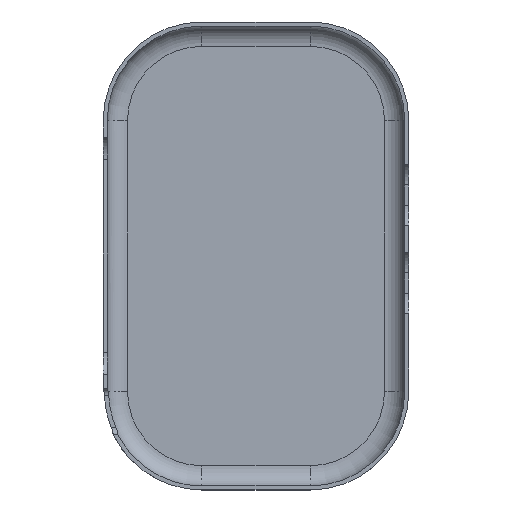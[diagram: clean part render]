
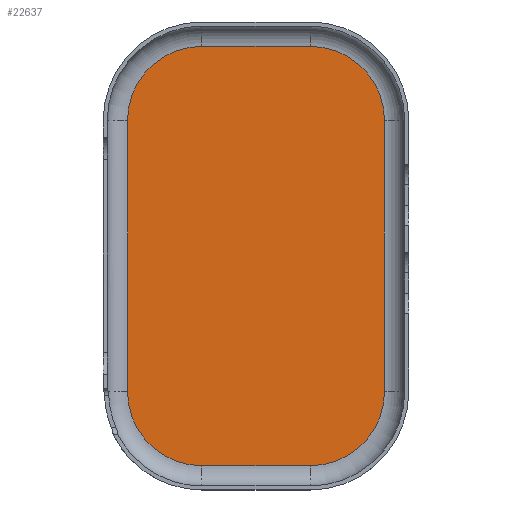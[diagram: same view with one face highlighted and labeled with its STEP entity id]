
A CAD part, top view. The second image highlights one B-rep face of the part: STEP entity #22637.
In plain terms, the highlighted planar face has unit normal (0, 0, 1).
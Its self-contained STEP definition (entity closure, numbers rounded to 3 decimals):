
#22637 = ADVANCED_FACE('',(#22638),#22652,.T.);
#22638 = FACE_BOUND('',#22639,.T.);
#22639 = EDGE_LOOP('',(#22640,#22675,#22704,#22732,#22761,#22789,#22818,
    #22846));
#22640 = ORIENTED_EDGE('',*,*,#22641,.T.);
#22641 = EDGE_CURVE('',#22642,#22644,#22646,.T.);
#22642 = VERTEX_POINT('',#22643);
#22643 = CARTESIAN_POINT('',(-38.,40.,-13.2));
#22644 = VERTEX_POINT('',#22645);
#22645 = CARTESIAN_POINT('',(-38.,-40.,-13.2));
#22646 = SURFACE_CURVE('',#22647,(#22651,#22663),.PCURVE_S1.);
#22647 = LINE('',#22648,#22649);
#22648 = CARTESIAN_POINT('',(-38.,34.,-13.2));
#22649 = VECTOR('',#22650,1.);
#22650 = DIRECTION('',(0.,-1.,0.));
#22651 = PCURVE('',#22652,#22657);
#22652 = PLANE('',#22653);
#22653 = AXIS2_PLACEMENT_3D('',#22654,#22655,#22656);
#22654 = CARTESIAN_POINT('',(0.,0.,-13.2));
#22655 = DIRECTION('',(0.,0.,1.));
#22656 = DIRECTION('',(1.,0.,-0.));
#22657 = DEFINITIONAL_REPRESENTATION('',(#22658),#22662);
#22658 = LINE('',#22659,#22660);
#22659 = CARTESIAN_POINT('',(-38.,34.));
#22660 = VECTOR('',#22661,1.);
#22661 = DIRECTION('',(0.,-1.));
#22662 = ( GEOMETRIC_REPRESENTATION_CONTEXT(2) 
PARAMETRIC_REPRESENTATION_CONTEXT() REPRESENTATION_CONTEXT('2D SPACE',''
  ) );
#22663 = PCURVE('',#22664,#22669);
#22664 = CYLINDRICAL_SURFACE('',#22665,6.);
#22665 = AXIS2_PLACEMENT_3D('',#22666,#22667,#22668);
#22666 = CARTESIAN_POINT('',(-38.,34.,-7.2));
#22667 = DIRECTION('',(0.,-1.,0.));
#22668 = DIRECTION('',(-0.707,-0.,-0.707));
#22669 = DEFINITIONAL_REPRESENTATION('',(#22670),#22674);
#22670 = LINE('',#22671,#22672);
#22671 = CARTESIAN_POINT('',(7.069,0.));
#22672 = VECTOR('',#22673,1.);
#22673 = DIRECTION('',(0.,1.));
#22674 = ( GEOMETRIC_REPRESENTATION_CONTEXT(2) 
PARAMETRIC_REPRESENTATION_CONTEXT() REPRESENTATION_CONTEXT('2D SPACE',''
  ) );
#22675 = ORIENTED_EDGE('',*,*,#22676,.T.);
#22676 = EDGE_CURVE('',#22644,#22677,#22679,.T.);
#22677 = VERTEX_POINT('',#22678);
#22678 = CARTESIAN_POINT('',(-16.,-62.,-13.2));
#22679 = SURFACE_CURVE('',#22680,(#22685,#22692),.PCURVE_S1.);
#22680 = CIRCLE('',#22681,22.);
#22681 = AXIS2_PLACEMENT_3D('',#22682,#22683,#22684);
#22682 = CARTESIAN_POINT('',(-16.,-40.,-13.2));
#22683 = DIRECTION('',(0.,0.,1.));
#22684 = DIRECTION('',(-0.707,-0.707,0.));
#22685 = PCURVE('',#22652,#22686);
#22686 = DEFINITIONAL_REPRESENTATION('',(#22687),#22691);
#22687 = CIRCLE('',#22688,22.);
#22688 = AXIS2_PLACEMENT_2D('',#22689,#22690);
#22689 = CARTESIAN_POINT('',(-16.,-40.));
#22690 = DIRECTION('',(-0.707,-0.707));
#22691 = ( GEOMETRIC_REPRESENTATION_CONTEXT(2) 
PARAMETRIC_REPRESENTATION_CONTEXT() REPRESENTATION_CONTEXT('2D SPACE',''
  ) );
#22692 = PCURVE('',#22693,#22698);
#22693 = TOROIDAL_SURFACE('',#22694,22.,6.);
#22694 = AXIS2_PLACEMENT_3D('',#22695,#22696,#22697);
#22695 = CARTESIAN_POINT('',(-16.,-40.,-7.2));
#22696 = DIRECTION('',(0.,0.,1.));
#22697 = DIRECTION('',(1.,0.,-0.));
#22698 = DEFINITIONAL_REPRESENTATION('',(#22699),#22703);
#22699 = LINE('',#22700,#22701);
#22700 = CARTESIAN_POINT('',(-2.356,4.712));
#22701 = VECTOR('',#22702,1.);
#22702 = DIRECTION('',(1.,0.));
#22703 = ( GEOMETRIC_REPRESENTATION_CONTEXT(2) 
PARAMETRIC_REPRESENTATION_CONTEXT() REPRESENTATION_CONTEXT('2D SPACE',''
  ) );
#22704 = ORIENTED_EDGE('',*,*,#22705,.T.);
#22705 = EDGE_CURVE('',#22677,#22706,#22708,.T.);
#22706 = VERTEX_POINT('',#22707);
#22707 = CARTESIAN_POINT('',(16.,-62.,-13.2));
#22708 = SURFACE_CURVE('',#22709,(#22713,#22720),.PCURVE_S1.);
#22709 = LINE('',#22710,#22711);
#22710 = CARTESIAN_POINT('',(-22.,-62.,-13.2));
#22711 = VECTOR('',#22712,1.);
#22712 = DIRECTION('',(1.,0.,0.));
#22713 = PCURVE('',#22652,#22714);
#22714 = DEFINITIONAL_REPRESENTATION('',(#22715),#22719);
#22715 = LINE('',#22716,#22717);
#22716 = CARTESIAN_POINT('',(-22.,-62.));
#22717 = VECTOR('',#22718,1.);
#22718 = DIRECTION('',(1.,0.));
#22719 = ( GEOMETRIC_REPRESENTATION_CONTEXT(2) 
PARAMETRIC_REPRESENTATION_CONTEXT() REPRESENTATION_CONTEXT('2D SPACE',''
  ) );
#22720 = PCURVE('',#22721,#22726);
#22721 = CYLINDRICAL_SURFACE('',#22722,6.);
#22722 = AXIS2_PLACEMENT_3D('',#22723,#22724,#22725);
#22723 = CARTESIAN_POINT('',(-22.,-62.,-7.2));
#22724 = DIRECTION('',(1.,0.,0.));
#22725 = DIRECTION('',(0.,-0.707,-0.707));
#22726 = DEFINITIONAL_REPRESENTATION('',(#22727),#22731);
#22727 = LINE('',#22728,#22729);
#22728 = CARTESIAN_POINT('',(7.069,0.));
#22729 = VECTOR('',#22730,1.);
#22730 = DIRECTION('',(0.,1.));
#22731 = ( GEOMETRIC_REPRESENTATION_CONTEXT(2) 
PARAMETRIC_REPRESENTATION_CONTEXT() REPRESENTATION_CONTEXT('2D SPACE',''
  ) );
#22732 = ORIENTED_EDGE('',*,*,#22733,.T.);
#22733 = EDGE_CURVE('',#22706,#22734,#22736,.T.);
#22734 = VERTEX_POINT('',#22735);
#22735 = CARTESIAN_POINT('',(38.,-40.,-13.2));
#22736 = SURFACE_CURVE('',#22737,(#22742,#22749),.PCURVE_S1.);
#22737 = CIRCLE('',#22738,22.);
#22738 = AXIS2_PLACEMENT_3D('',#22739,#22740,#22741);
#22739 = CARTESIAN_POINT('',(16.,-40.,-13.2));
#22740 = DIRECTION('',(0.,0.,1.));
#22741 = DIRECTION('',(0.707,-0.707,0.));
#22742 = PCURVE('',#22652,#22743);
#22743 = DEFINITIONAL_REPRESENTATION('',(#22744),#22748);
#22744 = CIRCLE('',#22745,22.);
#22745 = AXIS2_PLACEMENT_2D('',#22746,#22747);
#22746 = CARTESIAN_POINT('',(16.,-40.));
#22747 = DIRECTION('',(0.707,-0.707));
#22748 = ( GEOMETRIC_REPRESENTATION_CONTEXT(2) 
PARAMETRIC_REPRESENTATION_CONTEXT() REPRESENTATION_CONTEXT('2D SPACE',''
  ) );
#22749 = PCURVE('',#22750,#22755);
#22750 = TOROIDAL_SURFACE('',#22751,22.,6.);
#22751 = AXIS2_PLACEMENT_3D('',#22752,#22753,#22754);
#22752 = CARTESIAN_POINT('',(16.,-40.,-7.2));
#22753 = DIRECTION('',(0.,0.,1.));
#22754 = DIRECTION('',(1.,0.,-0.));
#22755 = DEFINITIONAL_REPRESENTATION('',(#22756),#22760);
#22756 = LINE('',#22757,#22758);
#22757 = CARTESIAN_POINT('',(-0.785,4.712));
#22758 = VECTOR('',#22759,1.);
#22759 = DIRECTION('',(1.,0.));
#22760 = ( GEOMETRIC_REPRESENTATION_CONTEXT(2) 
PARAMETRIC_REPRESENTATION_CONTEXT() REPRESENTATION_CONTEXT('2D SPACE',''
  ) );
#22761 = ORIENTED_EDGE('',*,*,#22762,.T.);
#22762 = EDGE_CURVE('',#22734,#22763,#22765,.T.);
#22763 = VERTEX_POINT('',#22764);
#22764 = CARTESIAN_POINT('',(38.,40.,-13.2));
#22765 = SURFACE_CURVE('',#22766,(#22770,#22777),.PCURVE_S1.);
#22766 = LINE('',#22767,#22768);
#22767 = CARTESIAN_POINT('',(38.,-34.,-13.2));
#22768 = VECTOR('',#22769,1.);
#22769 = DIRECTION('',(0.,1.,0.));
#22770 = PCURVE('',#22652,#22771);
#22771 = DEFINITIONAL_REPRESENTATION('',(#22772),#22776);
#22772 = LINE('',#22773,#22774);
#22773 = CARTESIAN_POINT('',(38.,-34.));
#22774 = VECTOR('',#22775,1.);
#22775 = DIRECTION('',(0.,1.));
#22776 = ( GEOMETRIC_REPRESENTATION_CONTEXT(2) 
PARAMETRIC_REPRESENTATION_CONTEXT() REPRESENTATION_CONTEXT('2D SPACE',''
  ) );
#22777 = PCURVE('',#22778,#22783);
#22778 = CYLINDRICAL_SURFACE('',#22779,6.);
#22779 = AXIS2_PLACEMENT_3D('',#22780,#22781,#22782);
#22780 = CARTESIAN_POINT('',(38.,-34.,-7.2));
#22781 = DIRECTION('',(0.,1.,0.));
#22782 = DIRECTION('',(0.707,0.,-0.707));
#22783 = DEFINITIONAL_REPRESENTATION('',(#22784),#22788);
#22784 = LINE('',#22785,#22786);
#22785 = CARTESIAN_POINT('',(7.069,0.));
#22786 = VECTOR('',#22787,1.);
#22787 = DIRECTION('',(0.,1.));
#22788 = ( GEOMETRIC_REPRESENTATION_CONTEXT(2) 
PARAMETRIC_REPRESENTATION_CONTEXT() REPRESENTATION_CONTEXT('2D SPACE',''
  ) );
#22789 = ORIENTED_EDGE('',*,*,#22790,.T.);
#22790 = EDGE_CURVE('',#22763,#22791,#22793,.T.);
#22791 = VERTEX_POINT('',#22792);
#22792 = CARTESIAN_POINT('',(16.,62.,-13.2));
#22793 = SURFACE_CURVE('',#22794,(#22799,#22806),.PCURVE_S1.);
#22794 = CIRCLE('',#22795,22.);
#22795 = AXIS2_PLACEMENT_3D('',#22796,#22797,#22798);
#22796 = CARTESIAN_POINT('',(16.,40.,-13.2));
#22797 = DIRECTION('',(0.,0.,1.));
#22798 = DIRECTION('',(0.707,0.707,-0.));
#22799 = PCURVE('',#22652,#22800);
#22800 = DEFINITIONAL_REPRESENTATION('',(#22801),#22805);
#22801 = CIRCLE('',#22802,22.);
#22802 = AXIS2_PLACEMENT_2D('',#22803,#22804);
#22803 = CARTESIAN_POINT('',(16.,40.));
#22804 = DIRECTION('',(0.707,0.707));
#22805 = ( GEOMETRIC_REPRESENTATION_CONTEXT(2) 
PARAMETRIC_REPRESENTATION_CONTEXT() REPRESENTATION_CONTEXT('2D SPACE',''
  ) );
#22806 = PCURVE('',#22807,#22812);
#22807 = TOROIDAL_SURFACE('',#22808,22.,6.);
#22808 = AXIS2_PLACEMENT_3D('',#22809,#22810,#22811);
#22809 = CARTESIAN_POINT('',(16.,40.,-7.2));
#22810 = DIRECTION('',(0.,0.,1.));
#22811 = DIRECTION('',(1.,0.,-0.));
#22812 = DEFINITIONAL_REPRESENTATION('',(#22813),#22817);
#22813 = LINE('',#22814,#22815);
#22814 = CARTESIAN_POINT('',(-5.498,4.712));
#22815 = VECTOR('',#22816,1.);
#22816 = DIRECTION('',(1.,0.));
#22817 = ( GEOMETRIC_REPRESENTATION_CONTEXT(2) 
PARAMETRIC_REPRESENTATION_CONTEXT() REPRESENTATION_CONTEXT('2D SPACE',''
  ) );
#22818 = ORIENTED_EDGE('',*,*,#22819,.T.);
#22819 = EDGE_CURVE('',#22791,#22820,#22822,.T.);
#22820 = VERTEX_POINT('',#22821);
#22821 = CARTESIAN_POINT('',(-16.,62.,-13.2));
#22822 = SURFACE_CURVE('',#22823,(#22827,#22834),.PCURVE_S1.);
#22823 = LINE('',#22824,#22825);
#22824 = CARTESIAN_POINT('',(22.,62.,-13.2));
#22825 = VECTOR('',#22826,1.);
#22826 = DIRECTION('',(-1.,0.,0.));
#22827 = PCURVE('',#22652,#22828);
#22828 = DEFINITIONAL_REPRESENTATION('',(#22829),#22833);
#22829 = LINE('',#22830,#22831);
#22830 = CARTESIAN_POINT('',(22.,62.));
#22831 = VECTOR('',#22832,1.);
#22832 = DIRECTION('',(-1.,0.));
#22833 = ( GEOMETRIC_REPRESENTATION_CONTEXT(2) 
PARAMETRIC_REPRESENTATION_CONTEXT() REPRESENTATION_CONTEXT('2D SPACE',''
  ) );
#22834 = PCURVE('',#22835,#22840);
#22835 = CYLINDRICAL_SURFACE('',#22836,6.);
#22836 = AXIS2_PLACEMENT_3D('',#22837,#22838,#22839);
#22837 = CARTESIAN_POINT('',(22.,62.,-7.2));
#22838 = DIRECTION('',(-1.,0.,0.));
#22839 = DIRECTION('',(0.,0.707,-0.707));
#22840 = DEFINITIONAL_REPRESENTATION('',(#22841),#22845);
#22841 = LINE('',#22842,#22843);
#22842 = CARTESIAN_POINT('',(7.069,0.));
#22843 = VECTOR('',#22844,1.);
#22844 = DIRECTION('',(0.,1.));
#22845 = ( GEOMETRIC_REPRESENTATION_CONTEXT(2) 
PARAMETRIC_REPRESENTATION_CONTEXT() REPRESENTATION_CONTEXT('2D SPACE',''
  ) );
#22846 = ORIENTED_EDGE('',*,*,#22847,.T.);
#22847 = EDGE_CURVE('',#22820,#22642,#22848,.T.);
#22848 = SURFACE_CURVE('',#22849,(#22854,#22861),.PCURVE_S1.);
#22849 = CIRCLE('',#22850,22.);
#22850 = AXIS2_PLACEMENT_3D('',#22851,#22852,#22853);
#22851 = CARTESIAN_POINT('',(-16.,40.,-13.2));
#22852 = DIRECTION('',(0.,0.,1.));
#22853 = DIRECTION('',(-0.707,0.707,0.));
#22854 = PCURVE('',#22652,#22855);
#22855 = DEFINITIONAL_REPRESENTATION('',(#22856),#22860);
#22856 = CIRCLE('',#22857,22.);
#22857 = AXIS2_PLACEMENT_2D('',#22858,#22859);
#22858 = CARTESIAN_POINT('',(-16.,40.));
#22859 = DIRECTION('',(-0.707,0.707));
#22860 = ( GEOMETRIC_REPRESENTATION_CONTEXT(2) 
PARAMETRIC_REPRESENTATION_CONTEXT() REPRESENTATION_CONTEXT('2D SPACE',''
  ) );
#22861 = PCURVE('',#22862,#22867);
#22862 = TOROIDAL_SURFACE('',#22863,22.,6.);
#22863 = AXIS2_PLACEMENT_3D('',#22864,#22865,#22866);
#22864 = CARTESIAN_POINT('',(-16.,40.,-7.2));
#22865 = DIRECTION('',(0.,0.,1.));
#22866 = DIRECTION('',(1.,0.,-0.));
#22867 = DEFINITIONAL_REPRESENTATION('',(#22868),#22872);
#22868 = LINE('',#22869,#22870);
#22869 = CARTESIAN_POINT('',(-3.927,4.712));
#22870 = VECTOR('',#22871,1.);
#22871 = DIRECTION('',(1.,0.));
#22872 = ( GEOMETRIC_REPRESENTATION_CONTEXT(2) 
PARAMETRIC_REPRESENTATION_CONTEXT() REPRESENTATION_CONTEXT('2D SPACE',''
  ) );
